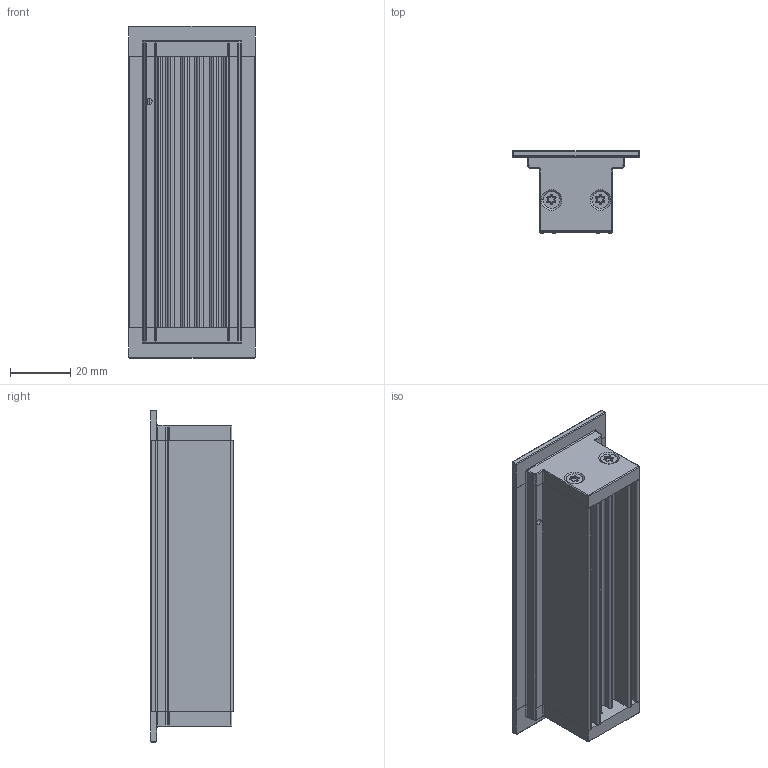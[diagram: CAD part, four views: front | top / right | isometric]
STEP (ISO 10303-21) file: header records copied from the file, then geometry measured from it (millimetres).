
FILE_DESCRIPTION (( 'STEP AP214' ), '1' );
FILE_NAME ('Dot 3.STEP', '2017-10-20T10:44:45', ( 'Ofitecnic3' ), ( 'Microsoft' ), 'SwSTEP 2.0', 'SolidWorks 2016', '' );
FILE_SCHEMA (( 'AUTOMOTIVE_DESIGN' ));
Length unit declared in the file: millimetre
Products named in the file (6): Dot  3; Perfil Tapa  BIM(SYSTEM CLICK)_EX3; Disipador BIM (DOT)_90 M3; Led BIM (DOT)_3; M3  BIM-Avellanedo Torx_8; Tapa Lateral  BIM(DOT-DOT.TILT)_Tapa Emp.
Assembly tree (9 placements, depth 2):
  Dot  3
    Disipador BIM (DOT)_90 M3
    Perfil Tapa  BIM(SYSTEM CLICK)_EX3
    Led BIM (DOT)_3
    Tapa Lateral  BIM(DOT-DOT.TILT)_Tapa Emp.  x2
    M3  BIM-Avellanedo Torx_8  x4
Bounding box: 42 x 27.3 x 110 mm (x, y, z)
Volume: 60369.7 mm3; surface area: 31223.6 mm2
Topology: 11 solids, 11 shells, 386 faces, 966 edges, 576 vertices
Faces by surface type: cylinder 185, plane 99, sphere 40, torus 40, cone 22
Entity records: 6726 total; most frequent: DIRECTION 1209, CARTESIAN_POINT 1152, ORIENTED_EDGE 1070, EDGE_CURVE 535, AXIS2_PLACEMENT_3D 459, VERTEX_POINT 337, LINE 291, VECTOR 291
